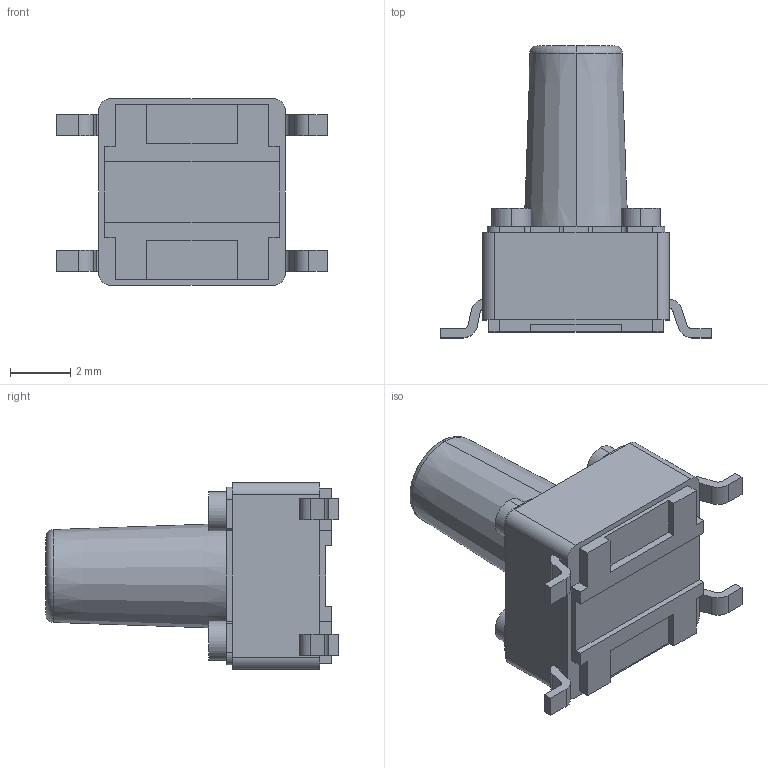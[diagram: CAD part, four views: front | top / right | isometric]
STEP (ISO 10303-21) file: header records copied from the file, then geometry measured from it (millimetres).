
FILE_DESCRIPTION (( 'STEP AP203' ), '1' );
FILE_NAME ('TSS-65.STEP', '2016-11-16T09:00:50', ( 'Windows 使用者' ), ( 'DIPTRONICS' ), 'SwSTEP 2.0', 'SolidWorks 2008', '' );
FILE_SCHEMA (( 'CONFIG_CONTROL_DESIGN' ));
Length unit declared in the file: millimetre
Products named in the file (1): TSS-65
Bounding box: 9 x 9.7 x 6.2 mm (x, y, z)
Volume: 152 mm3; surface area: 434.5 mm2
Topology: 1 solids, 1 shells, 332 faces, 934 edges, 609 vertices
Faces by surface type: plane 195, cylinder 101, bspline 28, cone 6, torus 2
Entity records: 11613 total; most frequent: CARTESIAN_POINT 3005, ORIENTED_EDGE 1864, DIRECTION 1698, EDGE_CURVE 932, VERTEX_POINT 609, VECTOR 590, LINE 590, AXIS2_PLACEMENT_3D 554
